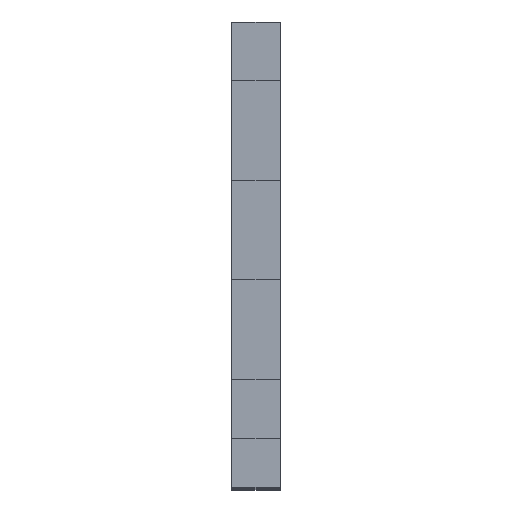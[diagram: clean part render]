
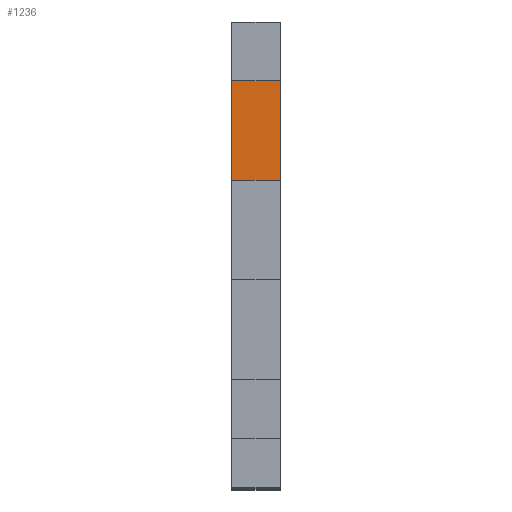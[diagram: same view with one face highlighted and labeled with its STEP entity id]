
A CAD part, top view. The second image highlights one B-rep face of the part: STEP entity #1236.
In plain terms, the highlighted planar face has unit normal (0, 0, 1).
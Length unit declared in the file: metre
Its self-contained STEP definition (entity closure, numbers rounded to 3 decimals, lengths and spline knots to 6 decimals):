
#28=PLANE('',#1315);
#122=LINE('',#1781,#298);
#124=LINE('',#1785,#300);
#125=LINE('',#1787,#301);
#126=LINE('',#1789,#302);
#298=VECTOR('',#1455,1.);
#300=VECTOR('',#1459,1.);
#301=VECTOR('',#1460,1.);
#302=VECTOR('',#1461,1.);
#496=ORIENTED_EDGE('',*,*,#840,.T.);
#497=ORIENTED_EDGE('',*,*,#841,.F.);
#498=ORIENTED_EDGE('',*,*,#842,.F.);
#499=ORIENTED_EDGE('',*,*,#838,.T.);
#838=EDGE_CURVE('',#1003,#1002,#122,.T.);
#840=EDGE_CURVE('',#1002,#1004,#124,.T.);
#841=EDGE_CURVE('',#1005,#1004,#125,.T.);
#842=EDGE_CURVE('',#1003,#1005,#126,.T.);
#1002=VERTEX_POINT('',#1780);
#1003=VERTEX_POINT('',#1782);
#1004=VERTEX_POINT('',#1786);
#1005=VERTEX_POINT('',#1788);
#1106=EDGE_LOOP('',(#496,#497,#498,#499));
#1170=FACE_BOUND('',#1106,.T.);
#1236=ADVANCED_FACE('',(#1170),#28,.F.);
#1315=AXIS2_PLACEMENT_3D('',#1784,#1457,#1458);
#1455=DIRECTION('',(-1.,0.,0.));
#1457=DIRECTION('',(0.,0.,-1.));
#1458=DIRECTION('',(0.,1.,0.));
#1459=DIRECTION('',(0.,-1.,0.));
#1460=DIRECTION('',(-1.,0.,0.));
#1461=DIRECTION('',(0.,-1.,0.));
#1780=CARTESIAN_POINT('',(0.0037,0.02245,-0.0036));
#1781=CARTESIAN_POINT('',(0.0064,0.02245,-0.0036));
#1782=CARTESIAN_POINT('',(0.0064,0.02245,-0.0036));
#1784=CARTESIAN_POINT('',(0.0064,0.0197,-0.0036));
#1785=CARTESIAN_POINT('',(0.0037,0.0197,-0.0036));
#1786=CARTESIAN_POINT('',(0.0037,0.01695,-0.0036));
#1787=CARTESIAN_POINT('',(0.0064,0.01695,-0.0036));
#1788=CARTESIAN_POINT('',(0.0064,0.01695,-0.0036));
#1789=CARTESIAN_POINT('',(0.0064,0.0197,-0.0036));
